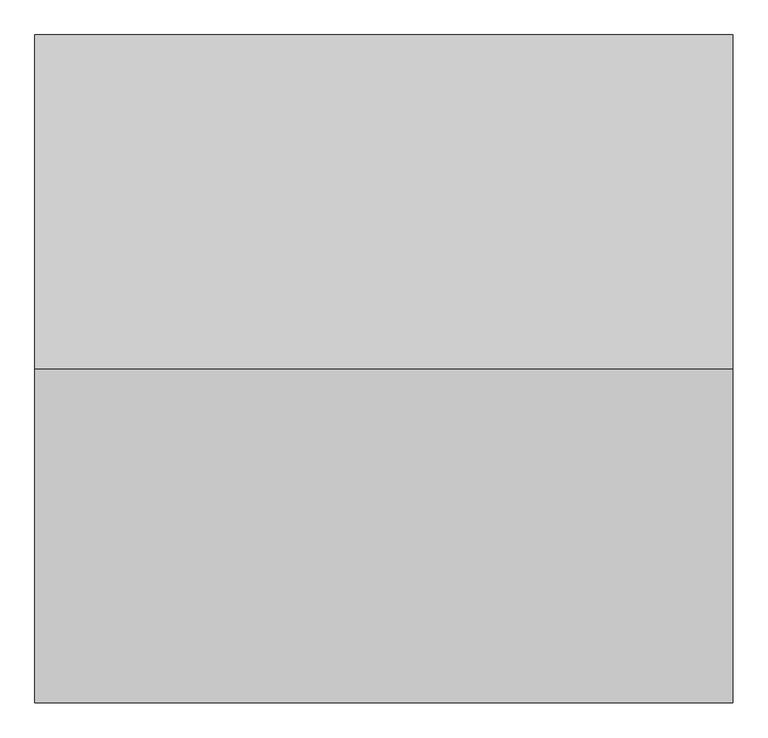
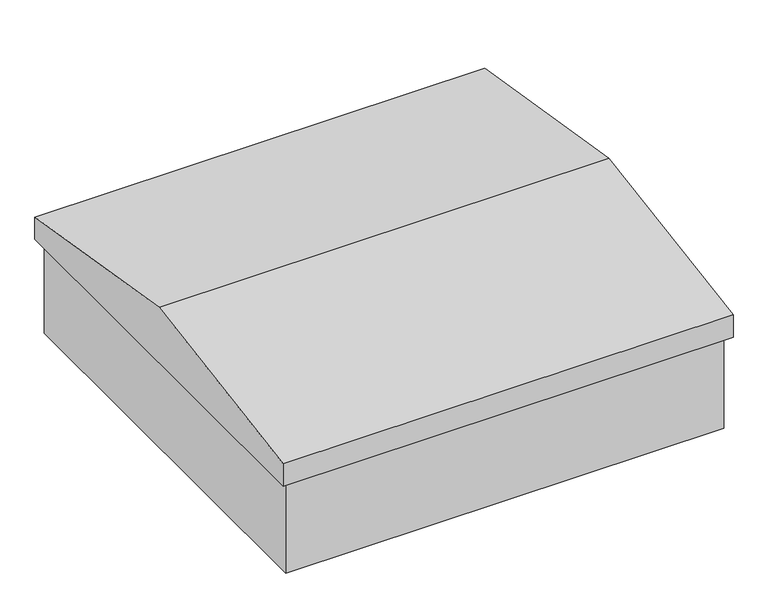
"""IFC4 building model written with IfcOpenShell, lengths in millimetres: proxy geometry, GM_Люк_выход на кровлю : Л1."""

from ifc_helpers import new_model, si_unit, point, frame, frame_2d, origin, origin_with_axes, place, context, project, spatial, polyline, circle_curve, trimmed, segment, composite_curve, outline, extrude, source, transform, mapped, element, save


def generic_models_d17e0ee5(model_context):
    return source(origin(), model_context, "Body", "SweptSolid", [
        extrude(outline(polyline([(250.0, 395.0), (250.0, 378.229991), (-250.0, 378.229991), (-250.0, 395.0), (250.0, 395.0)])), frame((0.0, 0.0, 220.0), z_axis=(0.0, 0.0, 1.0), x_axis=(1.0, 0.0, 0.0)), (0.0, 0.0, 1.0), 30.0),
        extrude(outline(composite_curve([segment(trimmed(circle_curve(frame_2d((0.0, 116.1501988)), 40.0), [point((-40.0, 116.1501988))], [point((40.0, 116.1501988))], False, "CARTESIAN"), True, "CONTINUOUS"), segment(trimmed(circle_curve(frame_2d((0.0, 116.1501988)), 40.0), [point((40.0, 116.1501988))], [point((-40.0, 116.1501988))], False, "CARTESIAN"), True, "CONTINUOUS")], self_intersect=False)), frame((430.0, 0.0, 0.0), z_axis=(1.0, 0.0, 0.0), x_axis=(0.0, 1.0, 0.0)), (0.0, 0.0, 1.0), 20.0),
        extrude(outline(polyline([(550.0, 250.0), (-550.0, 250.0), (-550.0, 310.0), (0.0, 400.0), (550.0, 310.0), (550.0, 250.0)])), frame((-575.0, 0.0, 0.0), z_axis=(1.0, 0.0, 0.0), x_axis=(0.0, 1.0, 0.0)), (0.0, 0.0, 1.0), 1150.0),
        extrude(outline(polyline([(-560.0, -535.0), (-560.0, 535.0), (560.0, 535.0), (560.0, -535.0), (-560.0, -535.0)]), holes=[polyline([(450.0, 425.0), (-450.0, 425.0), (-450.0, -425.0), (450.0, -425.0), (450.0, 425.0)])]), origin_with_axes(), (0.0, 0.0, 1.0), 250.0),
    ])


if __name__ == "__main__":
    model = new_model("IFC4")
    model_context = context("Model", 3, world=origin())
    ifc_project = project(units=[si_unit("LENGTHUNIT", "METRE", prefix="MILLI")], contexts=[model_context])
    site = spatial("IfcSite", under=ifc_project)
    building = spatial("IfcBuilding", under=site)
    placement = place(None, origin())
    generic_models_shape = generic_models_d17e0ee5(model_context)
    element("IfcBuildingElementProxy", 1, Name="GM_Люк_выход на кровлю : Л1", ObjectType="GM_Люк_выход на кровлю : Л1", at=placement, inside=building, context=model_context, shape_type="MappedRepresentation", body=[
        mapped(generic_models_shape, transform((0.0, 0.0, 0.0), x_axis=(1.0, 0.0, 0.0), y_axis=(0.0, 1.0, 0.0), z_axis=(0.0, 0.0, 1.0))),
    ])
    save(model, "model.ifc")
